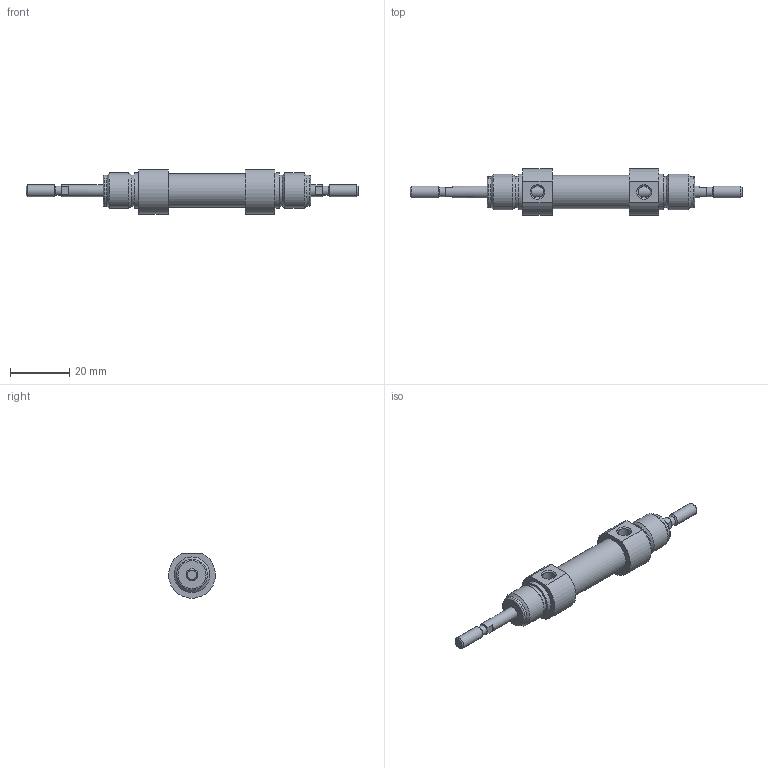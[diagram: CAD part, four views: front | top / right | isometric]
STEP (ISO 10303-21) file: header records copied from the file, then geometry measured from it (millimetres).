
FILE_DESCRIPTION(/* description */ (''),/* implementation_level */ '2;1');
FILE_NAME(/* name */ '\\UNIVER\Disegni in Archivio 2\CATALOGO STEP_Sito\MODELLI CILINDRI M\3D STEP\M101_M201\dia. 10\M101-10-0000.stp',/* time_stamp */ '2014-02-04T10:05:25+01:00',/* author */ ('Boceda'),/* organization */ (''),/* preprocessor_version */ 'ST-DEVELOPER v15.2',/* originating_system */ 'Autodesk Inventor 2014',/* authorisation */ '');
FILE_SCHEMA (('AUTOMOTIVE_DESIGN { 1 0 10303 214 3 1 1 }'));
Length unit declared in the file: centimetre
Products named in the file (1): M101-10-0000
Bounding box: 112 x 15.77 x 14.87 mm (x, y, z)
Volume: 9334.4 mm3; surface area: 4040.3 mm2
Topology: 1 solids, 1 shells, 65 faces, 134 edges, 81 vertices
Faces by surface type: plane 28, cylinder 21, cone 14, torus 2
Full cylindrical faces by diameter (mm): 3.141 x2, 4 x4, 4.134 x2, 10.466 x4, 11.3 x1, 12 x4
Entity records: 1609 total; most frequent: CARTESIAN_POINT 344, DIRECTION 280, ORIENTED_EDGE 196, AXIS2_PLACEMENT_3D 124, EDGE_LOOP 104, EDGE_CURVE 98, VERTEX_POINT 74, FACE_OUTER_BOUND 65
